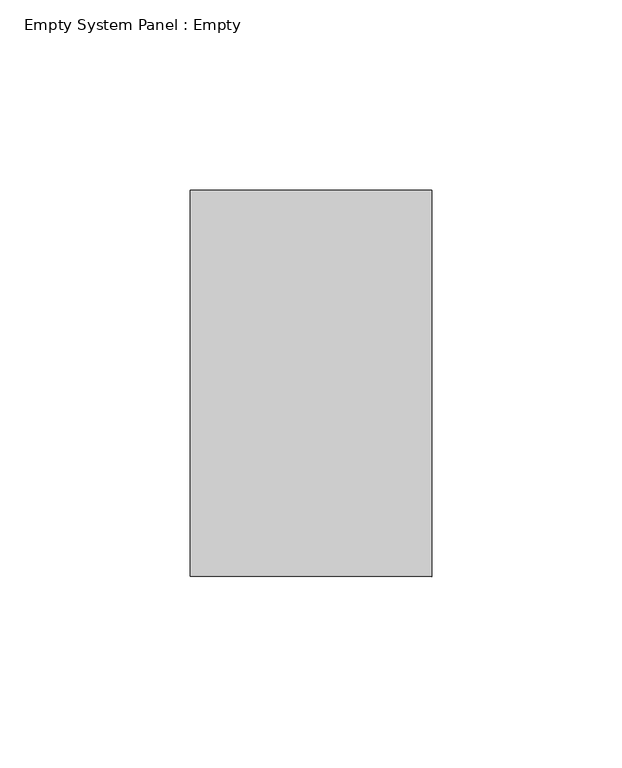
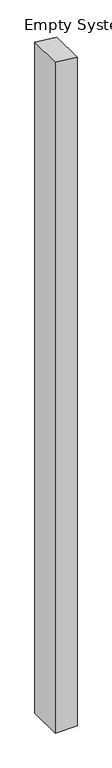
"""IFC4 building model written with IfcOpenShell, lengths in millimetres: plate geometry, Empty System Panel : Empty."""

from ifc_helpers import new_model, si_unit, frame, origin, place, context, project, spatial, polyline, outline, extrude, source, transform, mapped, element, save


def empty_system_panel_empty_0be32777(model_context):
    return source(origin(), model_context, "Body", "SweptSolid", [
        extrude(outline(polyline([(0.0, -31.75), (0.0, 31.75), (2051.0073881, 31.75), (2058.1097472, -31.75), (0.0, -31.75)])), frame((0.0, -50.8, 0.0), z_axis=(0.0, 1.0, 0.0), x_axis=(0.0, 0.0, 1.0)), (0.0, 0.0, 1.0), 101.6),
    ])


if __name__ == "__main__":
    model = new_model("IFC4")
    model_context = context("Model", 3, world=origin())
    ifc_project = project(units=[si_unit("LENGTHUNIT", "METRE", prefix="MILLI")], contexts=[model_context])
    site = spatial("IfcSite", under=ifc_project)
    building = spatial("IfcBuilding", under=site)
    placement = place(None, origin())
    empty_system_panel_empty_shape = empty_system_panel_empty_0be32777(model_context)
    element("IfcPlate", 1, ObjectType="Empty System Panel : Empty", at=placement, inside=building, context=model_context, shape_type="MappedRepresentation", body=[
        mapped(empty_system_panel_empty_shape, transform((0.0, 0.0, 0.0), x_axis=(1.0, 0.0, 0.0), y_axis=(0.0, 1.0, 0.0), z_axis=(0.0, 0.0, 1.0))),
    ])
    save(model, "model.ifc")
